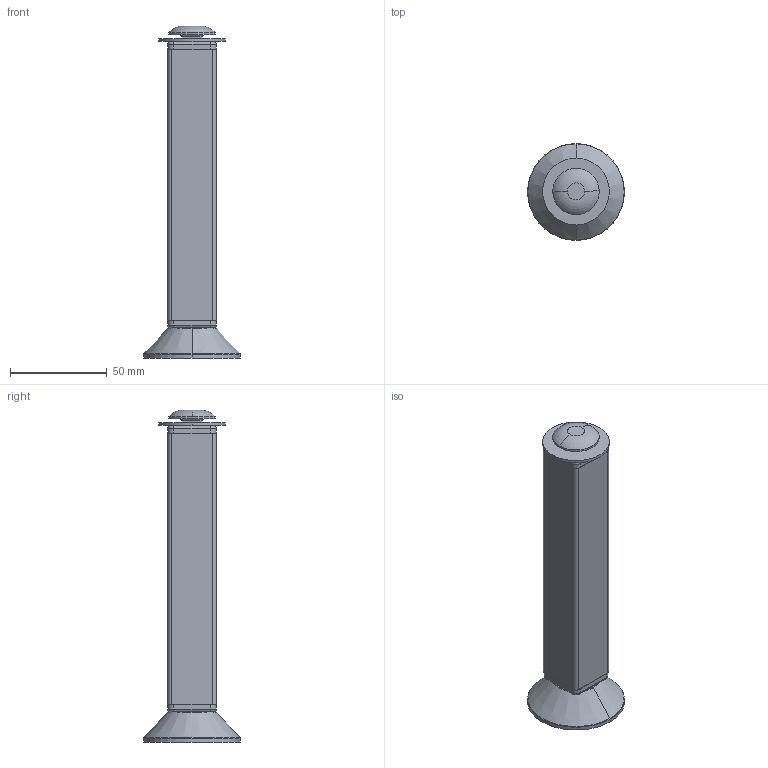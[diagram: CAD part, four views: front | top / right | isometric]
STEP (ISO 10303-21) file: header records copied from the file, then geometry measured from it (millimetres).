
FILE_DESCRIPTION (( 'STEP AP203' ), '1' );
FILE_NAME ('1216144PK_samling140mm.STEP', '2015-01-05T11:36:56', ( '' ), ( '' ), 'SwSTEP 2.0', 'SolidWorks 2011', '' );
FILE_SCHEMA (( 'CONFIG_CONTROL_DESIGN' ));
Length unit declared in the file: millimetre
Products named in the file (6): 1216144PK_Aluprofil140mm; 1216144PK_samling140mm; 1216144PK_M10bolt_rundhoved; 1216144PK_spændeskive_Dia34,5; 1216144PK_Fod_M10X50; 1216144PK_Plastikhætte_med_gevind
Assembly tree (6 placements, depth 2):
  1216144PK_samling140mm
    1216144PK_spændeskive_Dia34,5
    1216144PK_M10bolt_rundhoved
    1216144PK_Plastikhætte_med_gevind  x2
    1216144PK_Fod_M10X50
    1216144PK_Aluprofil140mm
Bounding box: 50 x 50 x 171.5 mm (x, y, z)
Volume: 55574.1 mm3; surface area: 43327.2 mm2
Topology: 6 solids, 6 shells, 142 faces, 318 edges, 188 vertices
Faces by surface type: cylinder 62, plane 48, torus 18, cone 6, bspline 4, sphere 4
Entity records: 3672 total; most frequent: CARTESIAN_POINT 625, DIRECTION 558, ORIENTED_EDGE 460, EDGE_CURVE 230, AXIS2_PLACEMENT_3D 223, VERTEX_POINT 138, EDGE_LOOP 120, LINE 112
